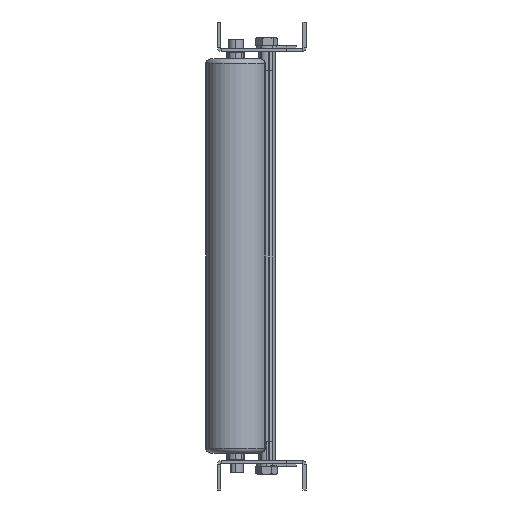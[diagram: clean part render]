
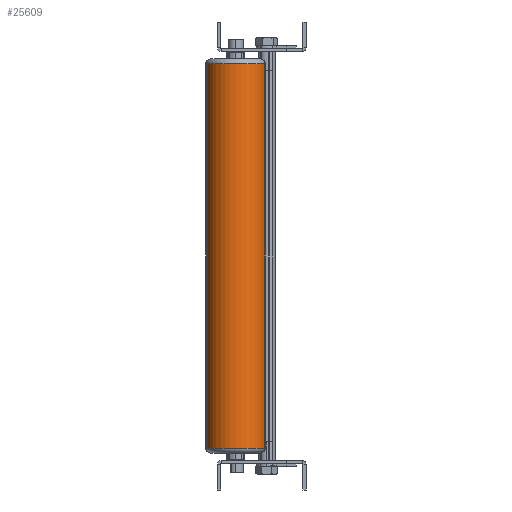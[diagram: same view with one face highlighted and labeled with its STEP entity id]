
A CAD part, left-side view. The second image highlights one B-rep face of the part: STEP entity #25609.
In plain terms, the highlighted cylindrical face has radius 30.25 mm (diameter 60.5 mm), a partial arc.
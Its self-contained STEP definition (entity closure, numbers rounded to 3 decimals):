
#751 = DIRECTION ( 'NONE',  ( 0., 0., 1. ) ) ;
#1225 = CARTESIAN_POINT ( 'NONE',  ( -1542.194, -345.266, -469.445 ) ) ;
#2159 = EDGE_LOOP ( 'NONE', ( #22381, #22267, #33177, #33546 ) ) ;
#3314 = VERTEX_POINT ( 'NONE', #14655 ) ;
#4441 = EDGE_CURVE ( 'NONE', #12646, #14198, #22866, .T. ) ;
#6363 = DIRECTION ( 'NONE',  ( -0.179, -0.984, 0. ) ) ;
#8202 = VERTEX_POINT ( 'NONE', #31477 ) ;
#8892 = AXIS2_PLACEMENT_3D ( 'NONE', #23482, #32202, #6363 ) ;
#12604 = CARTESIAN_POINT ( 'NONE',  ( -1536.768, -315.506, -469.445 ) ) ;
#12646 = VERTEX_POINT ( 'NONE', #22861 ) ;
#13179 = LINE ( 'NONE', #1225, #32612 ) ;
#14198 = VERTEX_POINT ( 'NONE', #35771 ) ;
#14655 = CARTESIAN_POINT ( 'NONE',  ( -1542.194, -345.266, -464.445 ) ) ;
#15436 = AXIS2_PLACEMENT_3D ( 'NONE', #12604, #17919, #32371 ) ;
#17919 = DIRECTION ( 'NONE',  ( 0., 0., 1. ) ) ;
#18407 = DIRECTION ( 'NONE',  ( -0.179, -0.984, 0. ) ) ;
#18813 = EDGE_CURVE ( 'NONE', #3314, #8202, #13179, .T. ) ;
#19163 = EDGE_CURVE ( 'NONE', #12646, #3314, #27172, .T. ) ;
#22267 = ORIENTED_EDGE ( 'NONE', *, *, #18813, .T. ) ;
#22381 = ORIENTED_EDGE ( 'NONE', *, *, #19163, .T. ) ;
#22861 = CARTESIAN_POINT ( 'NONE',  ( -1531.343, -285.747, -464.445 ) ) ;
#22866 = LINE ( 'NONE', #33887, #33671 ) ;
#23482 = CARTESIAN_POINT ( 'NONE',  ( -1536.768, -315.506, -74.445 ) ) ;
#25609 = ADVANCED_FACE ( 'NONE', ( #26471 ), #29892, .T. ) ;
#26471 = FACE_OUTER_BOUND ( 'NONE', #2159, .T. ) ;
#27172 = CIRCLE ( 'NONE', #33259, 30.25 ) ;
#27323 = CARTESIAN_POINT ( 'NONE',  ( -1536.768, -315.506, -464.445 ) ) ;
#29892 = CYLINDRICAL_SURFACE ( 'NONE', #15436, 30.25 ) ;
#31477 = CARTESIAN_POINT ( 'NONE',  ( -1542.194, -345.266, -74.445 ) ) ;
#32202 = DIRECTION ( 'NONE',  ( 0., 0., -1. ) ) ;
#32371 = DIRECTION ( 'NONE',  ( 0.179, 0.984, 0. ) ) ;
#32612 = VECTOR ( 'NONE', #36362, 1000. ) ;
#33177 = ORIENTED_EDGE ( 'NONE', *, *, #34064, .T. ) ;
#33259 = AXIS2_PLACEMENT_3D ( 'NONE', #27323, #751, #18407 ) ;
#33546 = ORIENTED_EDGE ( 'NONE', *, *, #4441, .F. ) ;
#33671 = VECTOR ( 'NONE', #34433, 1000. ) ;
#33887 = CARTESIAN_POINT ( 'NONE',  ( -1531.343, -285.747, -469.445 ) ) ;
#34064 = EDGE_CURVE ( 'NONE', #8202, #14198, #35601, .T. ) ;
#34433 = DIRECTION ( 'NONE',  ( 0., 0., 1. ) ) ;
#35601 = CIRCLE ( 'NONE', #8892, 30.25 ) ;
#35771 = CARTESIAN_POINT ( 'NONE',  ( -1531.343, -285.747, -74.445 ) ) ;
#36362 = DIRECTION ( 'NONE',  ( 0., 0., 1. ) ) ;
